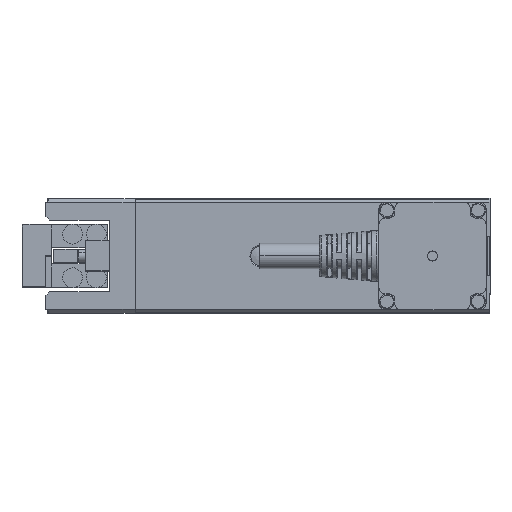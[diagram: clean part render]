
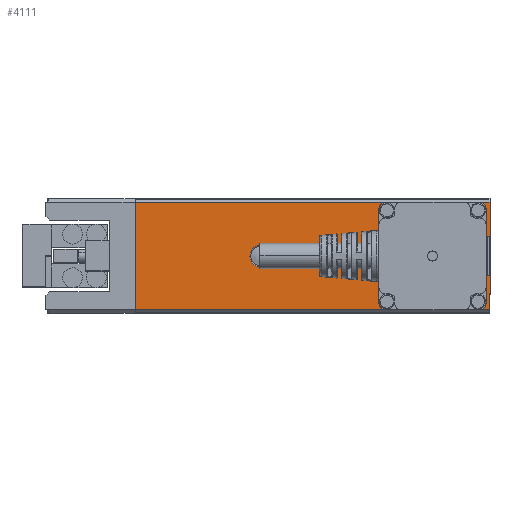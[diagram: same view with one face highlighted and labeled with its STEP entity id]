
A CAD part, left-side view. The second image highlights one B-rep face of the part: STEP entity #4111.
In plain terms, the highlighted planar face has unit normal (-1, 0, 0) as drawn and (1, 0, 0) by its records, which use the part's own axes.
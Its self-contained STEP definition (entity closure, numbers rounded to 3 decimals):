
#295 = DIRECTION ( 'NONE',  ( -1., 0., 0. ) ) ;
#385 = VERTEX_POINT ( 'NONE', #994 ) ;
#661 = ORIENTED_EDGE ( 'NONE', *, *, #11830, .T. ) ;
#994 = CARTESIAN_POINT ( 'NONE',  ( 27.5, 0.1, -5. ) ) ;
#1231 = CARTESIAN_POINT ( 'NONE',  ( 27.5, 89.5, 13.5 ) ) ;
#1855 = EDGE_CURVE ( 'NONE', #18935, #17241, #3902, .T. ) ;
#2257 = VECTOR ( 'NONE', #3880, 1000. ) ;
#2429 = CARTESIAN_POINT ( 'NONE',  ( 27.5, 72., 13.5 ) ) ;
#2720 = VECTOR ( 'NONE', #20000, 1000. ) ;
#3015 = DIRECTION ( 'NONE',  ( 0., 1., 0. ) ) ;
#3385 = CARTESIAN_POINT ( 'NONE',  ( 27.5, 1.7, 5. ) ) ;
#3710 = DIRECTION ( 'NONE',  ( 0., 0., 1. ) ) ;
#3880 = DIRECTION ( 'NONE',  ( 0., 0., -1. ) ) ;
#3902 = LINE ( 'NONE', #11130, #16015 ) ;
#4111 = ADVANCED_FACE ( 'NONE', ( #5497, #26786 ), #20249, .F. ) ;
#5046 = ORIENTED_EDGE ( 'NONE', *, *, #17353, .T. ) ;
#5169 = AXIS2_PLACEMENT_3D ( 'NONE', #21840, #5651, #21694 ) ;
#5363 = CARTESIAN_POINT ( 'NONE',  ( 27.5, 72., -13.5 ) ) ;
#5497 = FACE_OUTER_BOUND ( 'NONE', #16563, .T. ) ;
#5651 = DIRECTION ( 'NONE',  ( -1., 0., 0. ) ) ;
#5834 = VERTEX_POINT ( 'NONE', #6559 ) ;
#6029 = EDGE_CURVE ( 'NONE', #17241, #12303, #28474, .T. ) ;
#6189 = VECTOR ( 'NONE', #3015, 1000. ) ;
#6310 = EDGE_CURVE ( 'NONE', #385, #27297, #11152, .T. ) ;
#6559 = CARTESIAN_POINT ( 'NONE',  ( 27.5, 57.8, -2.75 ) ) ;
#6647 = CARTESIAN_POINT ( 'NONE',  ( 27.5, 57.8, 2.75 ) ) ;
#6686 = DIRECTION ( 'NONE',  ( 0., 0., -1. ) ) ;
#7108 = VECTOR ( 'NONE', #15220, 1000. ) ;
#7200 = LINE ( 'NONE', #2429, #15464 ) ;
#7632 = CARTESIAN_POINT ( 'NONE',  ( 27.5, 0., 5. ) ) ;
#7703 = EDGE_CURVE ( 'NONE', #27297, #18820, #18243, .T. ) ;
#7974 = LINE ( 'NONE', #3385, #7108 ) ;
#8140 = ORIENTED_EDGE ( 'NONE', *, *, #20299, .T. ) ;
#8226 = VERTEX_POINT ( 'NONE', #6647 ) ;
#8606 = VERTEX_POINT ( 'NONE', #11945 ) ;
#8801 = CARTESIAN_POINT ( 'NONE',  ( 27.5, 89.5, -14.5 ) ) ;
#9583 = ORIENTED_EDGE ( 'NONE', *, *, #6310, .T. ) ;
#9703 = DIRECTION ( 'NONE',  ( 0., 0., 1. ) ) ;
#9720 = VERTEX_POINT ( 'NONE', #19015 ) ;
#10239 = EDGE_CURVE ( 'NONE', #8226, #5834, #21894, .T. ) ;
#11051 = AXIS2_PLACEMENT_3D ( 'NONE', #12744, #295, #9703 ) ;
#11130 = CARTESIAN_POINT ( 'NONE',  ( 27.5, 0., -14.5 ) ) ;
#11152 = LINE ( 'NONE', #20574, #27419 ) ;
#11197 = VECTOR ( 'NONE', #6686, 1000. ) ;
#11681 = ORIENTED_EDGE ( 'NONE', *, *, #29908, .F. ) ;
#11830 = EDGE_CURVE ( 'NONE', #24337, #385, #28957, .T. ) ;
#11939 = DIRECTION ( 'NONE',  ( 0., 0.707, -0.707 ) ) ;
#11945 = CARTESIAN_POINT ( 'NONE',  ( 27.5, 89.5, -13.5 ) ) ;
#12303 = VERTEX_POINT ( 'NONE', #21793 ) ;
#12407 = CARTESIAN_POINT ( 'NONE',  ( 27.5, 0., -5. ) ) ;
#12744 = CARTESIAN_POINT ( 'NONE',  ( 27.5, 57.8, 0. ) ) ;
#12760 = ORIENTED_EDGE ( 'NONE', *, *, #28314, .F. ) ;
#12774 = CARTESIAN_POINT ( 'NONE',  ( 27.5, 57.8, 0. ) ) ;
#13803 = CARTESIAN_POINT ( 'NONE',  ( 27.5, 0., 5.1 ) ) ;
#13884 = CARTESIAN_POINT ( 'NONE',  ( 27.5, 1.7, -5. ) ) ;
#13907 = CIRCLE ( 'NONE', #19819, 2.75 ) ;
#14736 = DIRECTION ( 'NONE',  ( 0., -1., 0. ) ) ;
#15163 = ORIENTED_EDGE ( 'NONE', *, *, #6029, .T. ) ;
#15194 = CARTESIAN_POINT ( 'NONE',  ( 27.5, 0., 13.5 ) ) ;
#15220 = DIRECTION ( 'NONE',  ( 0., 0., 1. ) ) ;
#15228 = VERTEX_POINT ( 'NONE', #1231 ) ;
#15464 = VECTOR ( 'NONE', #16744, 1000. ) ;
#15569 = LINE ( 'NONE', #8801, #2257 ) ;
#16015 = VECTOR ( 'NONE', #20550, 1000. ) ;
#16216 = DIRECTION ( 'NONE',  ( 0., -0.707, -0.707 ) ) ;
#16563 = EDGE_LOOP ( 'NONE', ( #12760, #661, #9583, #29739, #8140, #11681, #27809, #24928, #15163, #5046 ) ) ;
#16744 = DIRECTION ( 'NONE',  ( 0., -1., 0. ) ) ;
#17241 = VERTEX_POINT ( 'NONE', #13803 ) ;
#17353 = EDGE_CURVE ( 'NONE', #12303, #9720, #28774, .T. ) ;
#18243 = LINE ( 'NONE', #30288, #11197 ) ;
#18820 = VERTEX_POINT ( 'NONE', #19073 ) ;
#18935 = VERTEX_POINT ( 'NONE', #15194 ) ;
#19015 = CARTESIAN_POINT ( 'NONE',  ( 27.5, 1.7, 5. ) ) ;
#19073 = CARTESIAN_POINT ( 'NONE',  ( 27.5, 0., -13.5 ) ) ;
#19819 = AXIS2_PLACEMENT_3D ( 'NONE', #12774, #24833, #3710 ) ;
#20000 = DIRECTION ( 'NONE',  ( 0., 1., 0. ) ) ;
#20249 = PLANE ( 'NONE',  #5169 ) ;
#20299 = EDGE_CURVE ( 'NONE', #18820, #8606, #21845, .T. ) ;
#20550 = DIRECTION ( 'NONE',  ( 0., 0., -1. ) ) ;
#20574 = CARTESIAN_POINT ( 'NONE',  ( 27.5, 0.1, -5. ) ) ;
#21694 = DIRECTION ( 'NONE',  ( 0., 0., 1. ) ) ;
#21793 = CARTESIAN_POINT ( 'NONE',  ( 27.5, 0.1, 5. ) ) ;
#21840 = CARTESIAN_POINT ( 'NONE',  ( 27.5, 72., -14.5 ) ) ;
#21845 = LINE ( 'NONE', #5363, #2720 ) ;
#21894 = CIRCLE ( 'NONE', #11051, 2.75 ) ;
#23865 = VECTOR ( 'NONE', #14736, 1000. ) ;
#24337 = VERTEX_POINT ( 'NONE', #13884 ) ;
#24833 = DIRECTION ( 'NONE',  ( -1., 0., 0. ) ) ;
#24928 = ORIENTED_EDGE ( 'NONE', *, *, #1855, .T. ) ;
#25257 = CARTESIAN_POINT ( 'NONE',  ( 27.5, 0., -5.1 ) ) ;
#25341 = ORIENTED_EDGE ( 'NONE', *, *, #26642, .T. ) ;
#25619 = ORIENTED_EDGE ( 'NONE', *, *, #10239, .T. ) ;
#25947 = VECTOR ( 'NONE', #11939, 1000. ) ;
#26468 = CARTESIAN_POINT ( 'NONE',  ( 27.5, 0., 5.1 ) ) ;
#26642 = EDGE_CURVE ( 'NONE', #5834, #8226, #13907, .T. ) ;
#26786 = FACE_BOUND ( 'NONE', #29879, .T. ) ;
#27297 = VERTEX_POINT ( 'NONE', #25257 ) ;
#27419 = VECTOR ( 'NONE', #16216, 1000. ) ;
#27809 = ORIENTED_EDGE ( 'NONE', *, *, #28635, .T. ) ;
#28314 = EDGE_CURVE ( 'NONE', #24337, #9720, #7974, .T. ) ;
#28474 = LINE ( 'NONE', #26468, #25947 ) ;
#28635 = EDGE_CURVE ( 'NONE', #15228, #18935, #7200, .T. ) ;
#28774 = LINE ( 'NONE', #7632, #6189 ) ;
#28957 = LINE ( 'NONE', #12407, #23865 ) ;
#29739 = ORIENTED_EDGE ( 'NONE', *, *, #7703, .T. ) ;
#29879 = EDGE_LOOP ( 'NONE', ( #25341, #25619 ) ) ;
#29908 = EDGE_CURVE ( 'NONE', #15228, #8606, #15569, .T. ) ;
#30288 = CARTESIAN_POINT ( 'NONE',  ( 27.5, 0., -14.5 ) ) ;
